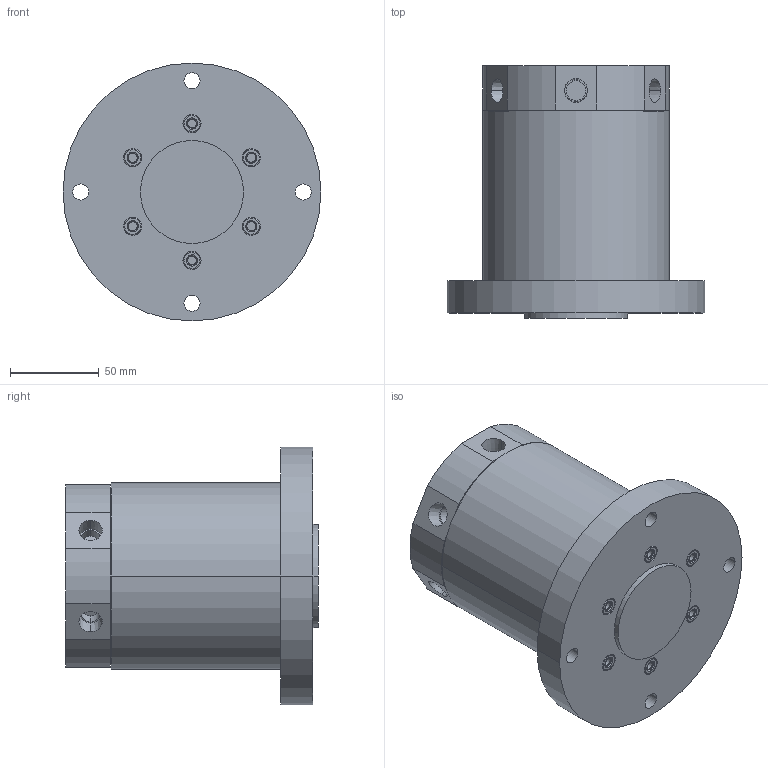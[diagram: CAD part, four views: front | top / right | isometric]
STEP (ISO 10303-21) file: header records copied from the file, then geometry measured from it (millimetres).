
FILE_DESCRIPTION((' '),'2;1');
FILE_NAME( 'PTMC6.x_t.stp', '2025-01-06T11:28:00', (' '), ('--- Datakit www.datakit.com---'), ' Datakit CrossCadWare V2024.1 Dec 21 2023', 'Mastercam 2025', ' ');
FILE_SCHEMA(('AUTOMOTIVE_DESIGN { 1 0 10303 214 1 1 1 1 }'));
Length unit declared in the file: millimetre
Products named in the file (1): PTMC6
Bounding box: 145 x 142 x 145 mm (x, y, z)
Volume: 1323497.9 mm3; surface area: 109020.2 mm2
Topology: 2 solids, 8 shells, 230 faces, 576 edges, 402 vertices
Faces by surface type: cylinder 108, plane 62, torus 48, cone 12
Entity records: 7342 total; most frequent: DIRECTION 1476, CARTESIAN_POINT 1209, ORIENTED_EDGE 1152, AXIS2_PLACEMENT_3D 669, EDGE_CURVE 576, CIRCLE 438, VERTEX_POINT 402, EDGE_LOOP 290
